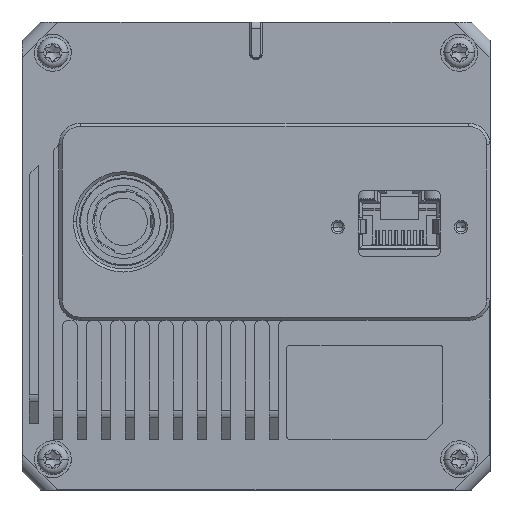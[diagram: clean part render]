
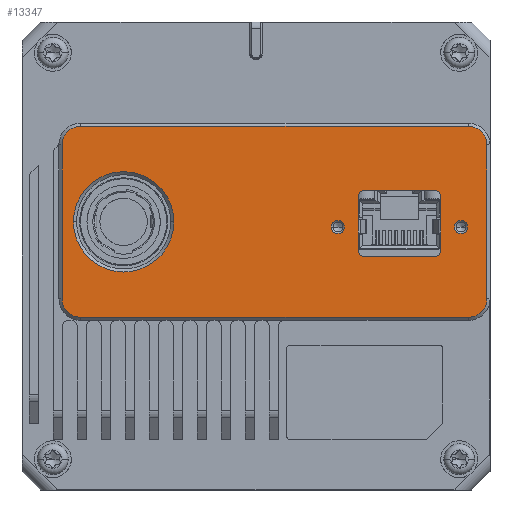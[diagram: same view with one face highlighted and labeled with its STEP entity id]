
A CAD part, front view. The second image highlights one B-rep face of the part: STEP entity #13347.
In plain terms, the highlighted planar face has unit normal (0, -1, 0).
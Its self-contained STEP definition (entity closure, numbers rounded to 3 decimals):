
#299=CARTESIAN_POINT('',(-28.5,-27.69,18.05));
#300=DIRECTION('',(0.,1.,0.));
#301=DIRECTION('',(-1.,0.,0.));
#302=AXIS2_PLACEMENT_3D('',#299,#300,#301);
#304=CARTESIAN_POINT('',(34.5,-27.69,18.05));
#305=DIRECTION('',(0.,1.,0.));
#306=DIRECTION('',(0.,0.,1.));
#307=AXIS2_PLACEMENT_3D('',#304,#305,#306);
#309=CARTESIAN_POINT('',(34.5,-27.69,-6.95));
#310=DIRECTION('',(0.,1.,0.));
#311=DIRECTION('',(1.,0.,0.));
#312=AXIS2_PLACEMENT_3D('',#309,#310,#311);
#314=CARTESIAN_POINT('',(-28.5,-27.69,-6.95));
#315=DIRECTION('',(0.,1.,0.));
#316=DIRECTION('',(0.,0.,-1.));
#317=AXIS2_PLACEMENT_3D('',#314,#315,#316);
#319=CARTESIAN_POINT('',(33.3,-27.69,4.7));
#320=DIRECTION('',(0.,-1.,0.));
#321=DIRECTION('',(-1.,0.,0.));
#322=AXIS2_PLACEMENT_3D('',#319,#320,#321);
#324=CARTESIAN_POINT('',(33.3,-27.69,4.7));
#325=DIRECTION('',(0.,-1.,0.));
#326=DIRECTION('',(0.,0.,-1.));
#327=AXIS2_PLACEMENT_3D('',#324,#325,#326);
#329=CARTESIAN_POINT('',(33.3,-27.69,4.7));
#330=DIRECTION('',(0.,-1.,0.));
#331=DIRECTION('',(1.,0.,0.));
#332=AXIS2_PLACEMENT_3D('',#329,#330,#331);
#334=CARTESIAN_POINT('',(13.3,-27.69,4.7));
#335=DIRECTION('',(0.,-1.,0.));
#336=DIRECTION('',(1.,0.,0.));
#337=AXIS2_PLACEMENT_3D('',#334,#335,#336);
#339=CARTESIAN_POINT('',(13.3,-27.69,4.7));
#340=DIRECTION('',(0.,-1.,0.));
#341=DIRECTION('',(-1.,0.,0.));
#342=AXIS2_PLACEMENT_3D('',#339,#340,#341);
#344=CARTESIAN_POINT('',(13.3,-27.69,4.7));
#345=DIRECTION('',(0.,-1.,0.));
#346=DIRECTION('',(0.,0.,-1.));
#347=AXIS2_PLACEMENT_3D('',#344,#345,#346);
#349=CARTESIAN_POINT('',(-21.5,-27.69,5.55));
#350=DIRECTION('',(0.,-1.,0.));
#351=DIRECTION('',(1.,0.,0.));
#352=AXIS2_PLACEMENT_3D('',#349,#350,#351);
#354=CARTESIAN_POINT('',(-21.5,-27.69,5.55));
#355=DIRECTION('',(0.,-1.,0.));
#356=DIRECTION('',(-1.,0.,0.));
#357=AXIS2_PLACEMENT_3D('',#354,#355,#356);
#359=CARTESIAN_POINT('',(-21.5,-27.69,5.55));
#360=DIRECTION('',(0.,-1.,0.));
#361=DIRECTION('',(0.,0.,-1.));
#362=AXIS2_PLACEMENT_3D('',#359,#360,#361);
#364=CARTESIAN_POINT('',(17.6,-27.69,9.675));
#365=DIRECTION('',(0.,-1.,0.));
#366=DIRECTION('',(0.,0.,1.));
#367=AXIS2_PLACEMENT_3D('',#364,#365,#366);
#369=CARTESIAN_POINT('',(17.6,-27.69,0.925));
#370=DIRECTION('',(0.,-1.,0.));
#371=DIRECTION('',(-1.,0.,0.));
#372=AXIS2_PLACEMENT_3D('',#369,#370,#371);
#374=CARTESIAN_POINT('',(29.,-27.69,0.925));
#375=DIRECTION('',(0.,-1.,0.));
#376=DIRECTION('',(0.,0.,-1.));
#377=AXIS2_PLACEMENT_3D('',#374,#375,#376);
#379=CARTESIAN_POINT('',(29.,-27.69,9.675));
#380=DIRECTION('',(0.,-1.,0.));
#381=DIRECTION('',(1.,0.,0.));
#382=AXIS2_PLACEMENT_3D('',#379,#380,#381);
#1395=DIRECTION('',(1.,0.,0.));
#1396=VECTOR('',#1395,63.);
#1397=CARTESIAN_POINT('',(-28.5,-27.69,-9.95));
#1398=LINE('',#1397,#1396);
#1477=DIRECTION('',(0.,0.,-1.));
#1478=VECTOR('',#1477,25.);
#1479=CARTESIAN_POINT('',(-31.5,-27.69,18.05));
#1480=LINE('',#1479,#1478);
#1493=DIRECTION('',(0.,0.,1.));
#1494=VECTOR('',#1493,25.);
#1495=CARTESIAN_POINT('',(37.5,-27.69,-6.95));
#1496=LINE('',#1495,#1494);
#1505=DIRECTION('',(-1.,0.,0.));
#1506=VECTOR('',#1505,63.);
#1507=CARTESIAN_POINT('',(34.5,-27.69,21.05));
#1508=LINE('',#1507,#1506);
#6610=DIRECTION('',(1.,0.,0.));
#6611=VECTOR('',#6610,11.4);
#6612=CARTESIAN_POINT('',(17.6,-27.69,10.675));
#6613=LINE('',#6612,#6611);
#6698=DIRECTION('',(0.,0.,-1.));
#6699=VECTOR('',#6698,8.75);
#6700=CARTESIAN_POINT('',(30.,-27.69,9.675));
#6701=LINE('',#6700,#6699);
#6714=DIRECTION('',(-1.,0.,0.));
#6715=VECTOR('',#6714,11.4);
#6716=CARTESIAN_POINT('',(29.,-27.69,-0.075));
#6717=LINE('',#6716,#6715);
#6730=DIRECTION('',(0.,0.,1.));
#6731=VECTOR('',#6730,8.75);
#6732=CARTESIAN_POINT('',(16.6,-27.69,0.925));
#6733=LINE('',#6732,#6731);
#10519=CARTESIAN_POINT('',(-31.5,-27.69,-6.95));
#10521=VERTEX_POINT('',#10519);
#10523=CARTESIAN_POINT('',(17.6,-27.69,10.675));
#10524=CARTESIAN_POINT('',(29.,-27.69,10.675));
#10525=VERTEX_POINT('',#10523);
#10526=VERTEX_POINT('',#10524);
#10527=CARTESIAN_POINT('',(16.6,-27.69,0.925));
#10528=CARTESIAN_POINT('',(16.6,-27.69,9.675));
#10529=VERTEX_POINT('',#10527);
#10530=VERTEX_POINT('',#10528);
#10531=CARTESIAN_POINT('',(29.,-27.69,-0.075));
#10532=CARTESIAN_POINT('',(17.6,-27.69,-0.075));
#10533=VERTEX_POINT('',#10531);
#10534=VERTEX_POINT('',#10532);
#10535=CARTESIAN_POINT('',(30.,-27.69,9.675));
#10536=CARTESIAN_POINT('',(30.,-27.69,0.925));
#10537=VERTEX_POINT('',#10535);
#10538=VERTEX_POINT('',#10536);
#10539=CARTESIAN_POINT('',(32.25,-27.69,4.7));
#10540=CARTESIAN_POINT('',(33.3,-27.69,3.65));
#10541=VERTEX_POINT('',#10539);
#10542=VERTEX_POINT('',#10540);
#10543=CARTESIAN_POINT('',(34.35,-27.69,4.7));
#10544=VERTEX_POINT('',#10543);
#10545=CARTESIAN_POINT('',(14.35,-27.69,4.7));
#10546=CARTESIAN_POINT('',(12.25,-27.69,4.7));
#10547=VERTEX_POINT('',#10545);
#10548=VERTEX_POINT('',#10546);
#10549=CARTESIAN_POINT('',(13.3,-27.69,3.65));
#10550=VERTEX_POINT('',#10549);
#10551=CARTESIAN_POINT('',(-13.35,-27.69,5.55));
#10552=CARTESIAN_POINT('',(-29.65,-27.69,5.55));
#10553=VERTEX_POINT('',#10551);
#10554=VERTEX_POINT('',#10552);
#10555=CARTESIAN_POINT('',(-21.5,-27.69,-2.6));
#10556=VERTEX_POINT('',#10555);
#10557=CARTESIAN_POINT('',(-31.5,-27.69,18.05));
#10558=CARTESIAN_POINT('',(-28.5,-27.69,21.05));
#10559=VERTEX_POINT('',#10557);
#10560=VERTEX_POINT('',#10558);
#10561=CARTESIAN_POINT('',(34.5,-27.69,21.05));
#10562=VERTEX_POINT('',#10561);
#10563=CARTESIAN_POINT('',(37.5,-27.69,18.05));
#10564=VERTEX_POINT('',#10563);
#10565=CARTESIAN_POINT('',(37.5,-27.69,-6.95));
#10566=VERTEX_POINT('',#10565);
#10567=CARTESIAN_POINT('',(34.5,-27.69,-9.95));
#10568=VERTEX_POINT('',#10567);
#10569=CARTESIAN_POINT('',(-28.5,-27.69,-9.95));
#10570=VERTEX_POINT('',#10569);
#13285=CARTESIAN_POINT('',(3.,-27.69,5.55));
#13286=DIRECTION('',(0.,1.,0.));
#13287=DIRECTION('',(-1.,0.,0.));
#13288=AXIS2_PLACEMENT_3D('',#13285,#13286,#13287);
#13289=PLANE('',#13288);
#13291=ORIENTED_EDGE('',*,*,#13290,.T.);
#13293=ORIENTED_EDGE('',*,*,#13292,.F.);
#13295=ORIENTED_EDGE('',*,*,#13294,.T.);
#13297=ORIENTED_EDGE('',*,*,#13296,.F.);
#13299=ORIENTED_EDGE('',*,*,#13298,.T.);
#13301=ORIENTED_EDGE('',*,*,#13300,.F.);
#13303=ORIENTED_EDGE('',*,*,#13302,.T.);
#13305=ORIENTED_EDGE('',*,*,#13304,.F.);
#13306=EDGE_LOOP('',(#13291,#13293,#13295,#13297,#13299,#13301,#13303,#13305));
#13307=FACE_OUTER_BOUND('',#13306,.F.);
#13309=ORIENTED_EDGE('',*,*,#13308,.T.);
#13311=ORIENTED_EDGE('',*,*,#13310,.T.);
#13313=ORIENTED_EDGE('',*,*,#13312,.T.);
#13314=EDGE_LOOP('',(#13309,#13311,#13313));
#13315=FACE_BOUND('',#13314,.F.);
#13317=ORIENTED_EDGE('',*,*,#13316,.T.);
#13319=ORIENTED_EDGE('',*,*,#13318,.T.);
#13321=ORIENTED_EDGE('',*,*,#13320,.T.);
#13322=EDGE_LOOP('',(#13317,#13319,#13321));
#13323=FACE_BOUND('',#13322,.F.);
#13324=ORIENTED_EDGE('',*,*,#13262,.T.);
#13325=ORIENTED_EDGE('',*,*,#13279,.T.);
#13326=ORIENTED_EDGE('',*,*,#13277,.T.);
#13327=EDGE_LOOP('',(#13324,#13325,#13326));
#13328=FACE_BOUND('',#13327,.F.);
#13330=ORIENTED_EDGE('',*,*,#13329,.F.);
#13332=ORIENTED_EDGE('',*,*,#13331,.T.);
#13334=ORIENTED_EDGE('',*,*,#13333,.F.);
#13336=ORIENTED_EDGE('',*,*,#13335,.T.);
#13338=ORIENTED_EDGE('',*,*,#13337,.F.);
#13340=ORIENTED_EDGE('',*,*,#13339,.T.);
#13342=ORIENTED_EDGE('',*,*,#13341,.F.);
#13344=ORIENTED_EDGE('',*,*,#13343,.T.);
#13345=EDGE_LOOP('',(#13330,#13332,#13334,#13336,#13338,#13340,#13342,#13344));
#13346=FACE_BOUND('',#13345,.F.);
#13347=ADVANCED_FACE('',(#13307,#13315,#13323,#13328,#13346),#13289,.F.);
#303=CIRCLE('',#302,3.);
#308=CIRCLE('',#307,3.);
#313=CIRCLE('',#312,3.);
#318=CIRCLE('',#317,3.);
#323=CIRCLE('',#322,1.05);
#328=CIRCLE('',#327,1.05);
#333=CIRCLE('',#332,1.05);
#338=CIRCLE('',#337,1.05);
#343=CIRCLE('',#342,1.05);
#348=CIRCLE('',#347,1.05);
#353=CIRCLE('',#352,8.15);
#358=CIRCLE('',#357,8.15);
#363=CIRCLE('',#362,8.15);
#368=CIRCLE('',#367,1.);
#373=CIRCLE('',#372,1.);
#378=CIRCLE('',#377,1.);
#383=CIRCLE('',#382,1.);
#13262=EDGE_CURVE('',#10553,#10554,#353,.T.);
#13277=EDGE_CURVE('',#10556,#10553,#363,.T.);
#13279=EDGE_CURVE('',#10554,#10556,#358,.T.);
#13290=EDGE_CURVE('',#10559,#10560,#303,.T.);
#13292=EDGE_CURVE('',#10562,#10560,#1508,.T.);
#13294=EDGE_CURVE('',#10562,#10564,#308,.T.);
#13296=EDGE_CURVE('',#10566,#10564,#1496,.T.);
#13298=EDGE_CURVE('',#10566,#10568,#313,.T.);
#13300=EDGE_CURVE('',#10570,#10568,#1398,.T.);
#13302=EDGE_CURVE('',#10570,#10521,#318,.T.);
#13304=EDGE_CURVE('',#10559,#10521,#1480,.T.);
#13308=EDGE_CURVE('',#10541,#10542,#323,.T.);
#13310=EDGE_CURVE('',#10542,#10544,#328,.T.);
#13312=EDGE_CURVE('',#10544,#10541,#333,.T.);
#13316=EDGE_CURVE('',#10547,#10548,#338,.T.);
#13318=EDGE_CURVE('',#10548,#10550,#343,.T.);
#13320=EDGE_CURVE('',#10550,#10547,#348,.T.);
#13329=EDGE_CURVE('',#10525,#10526,#6613,.T.);
#13331=EDGE_CURVE('',#10525,#10530,#368,.T.);
#13333=EDGE_CURVE('',#10529,#10530,#6733,.T.);
#13335=EDGE_CURVE('',#10529,#10534,#373,.T.);
#13337=EDGE_CURVE('',#10533,#10534,#6717,.T.);
#13339=EDGE_CURVE('',#10533,#10538,#378,.T.);
#13341=EDGE_CURVE('',#10537,#10538,#6701,.T.);
#13343=EDGE_CURVE('',#10537,#10526,#383,.T.);
